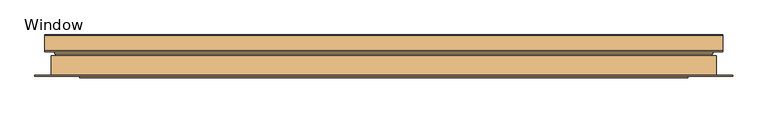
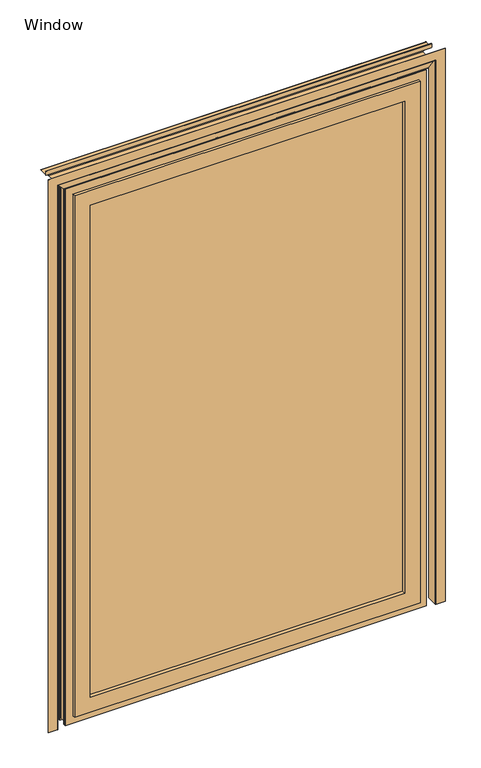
"""IFC4 building model written with IfcOpenShell, lengths in millimetres: door geometry, QO-V-QB_Door Module : Window."""

from ifc_helpers import new_model, si_unit, frame, origin, place, context, project, spatial, polyline, circle_curve, ellipse_curve, outline, extrude, faceted_brep, source, transform, mapped, element, save
from ifc_brep_helpers import plane_surface, cylinder_surface, revolved_surface, advanced_brep


def window_762d9ac7(model_context):
    return source(origin(), model_context, "Body", "SolidModel", [
        extrude(outline(polyline([(-835.985256, -85.0037561), (804.985256, -85.0037561), (804.985256, -105.0037561), (-835.985256, -105.0037561), (-835.985256, -85.0037561)])), frame((0.0, 0.0, 125.014744), z_axis=(0.0, 0.0, 1.0), x_axis=(1.0, 0.0, 0.0)), (0.0, 0.0, 1.0), 2694.470512),
        faceted_brep([(833.7021017, -67.0037561, 96.2978983), (833.7021017, -50.0037561, 96.2978983), (833.7021017, -50.0037561, 2848.2021017), (833.7021017, -67.0037561, 2848.2021017), (842.0, -50.0037561, 88.0), (842.0, -67.0037561, 88.0), (842.0, -67.0037561, 2856.5), (842.0, -50.0037561, 2856.5), (910.0, -53.8037561, 20.0), (910.0, -50.0037561, 20.0), (910.0, -50.0037561, 2924.5), (910.0, -53.8037561, 2924.5), (902.0, -57.8037561, 28.0), (902.0, -53.8037561, 28.0), (902.0, -53.8037561, 2916.5), (902.0, -57.8037561, 2916.5), (910.0, -62.1037561, 20.0), (910.0, -57.8037561, 20.0), (910.0, -57.8037561, 2924.5), (910.0, -62.1037561, 2924.5), (902.0, -97.9037561, 28.0), (902.0, -62.1037561, 28.0), (902.0, -62.1037561, 2916.5), (902.0, -97.9037561, 2916.5), (910.0, -102.2037561, 20.0), (910.0, -97.9037561, 20.0), (910.0, -97.9037561, 2924.5), (910.0, -102.2037561, 2924.5), (902.0, -106.2037561, 28.0), (902.0, -102.2037561, 28.0), (902.0, -102.2037561, 2916.5), (902.0, -106.2037561, 2916.5), (910.0, -110.0037561, 20.0), (910.0, -106.2037561, 20.0), (910.0, -106.2037561, 2924.5), (910.0, -110.0037561, 2924.5), (862.0, -98.8037561, 68.0), (862.0, -110.0037561, 68.0), (862.0, -110.0037561, 2876.5), (862.0, -98.8037561, 2876.5), (867.8127684, -62.5037561, 62.1872316), (867.8127684, -98.8037561, 62.1872316), (867.8127684, -98.8037561, 2882.3127684), (867.8127684, -62.5037561, 2882.3127684), (850.0, -114.5037561, 80.0), (850.0, -62.5037561, 80.0), (850.0, -62.5037561, 2864.5), (850.0, -114.5037561, 2864.5), (867.8127684, -110.7626496, 62.1872316), (867.8127684, -114.5037561, 62.1872316), (867.8127684, -114.5037561, 2882.3127684), (867.8127684, -110.7626496, 2882.3127684), (870.0, -124.5037561, 60.0), (870.0, -110.7626496, 60.0), (870.0, -110.7626496, 2884.5), (870.0, -124.5037561, 2884.5), (790.0, -105.0036269, 140.0), (790.0, -124.5037561, 140.0), (790.0, -124.5037561, 2804.5), (790.0, -105.0036269, 2804.5), (804.985256, -85.0036357, 125.014744), (804.985256, -105.0036269, 125.014744), (804.985256, -105.0036269, 2819.485256), (804.985256, -85.0036357, 2819.485256), (790.0, -50.0037561, 140.0), (790.0, -85.0036357, 140.0), (790.0, -85.0036357, 2804.5), (790.0, -50.0037561, 2804.5), (-864.7021017, -50.0037561, 2848.2021017), (-864.7021017, -67.0037561, 2848.2021017), (-873.0, -67.0037561, 2856.5), (-873.0, -50.0037561, 2856.5), (-941.0, -50.0037561, 2924.5), (-941.0, -53.8037561, 2924.5), (-933.0, -53.8037561, 2916.5), (-933.0, -57.8037561, 2916.5), (-941.0, -57.8037561, 2924.5), (-941.0, -62.1037561, 2924.5), (-933.0, -62.1037561, 2916.5), (-933.0, -97.9037561, 2916.5), (-941.0, -97.9037561, 2924.5), (-941.0, -102.2037561, 2924.5), (-933.0, -102.2037561, 2916.5), (-933.0, -106.2037561, 2916.5), (-941.0, -106.2037561, 2924.5), (-941.0, -110.0037561, 2924.5), (-893.0, -110.0037561, 2876.5), (-893.0, -98.8037561, 2876.5), (-898.8127684, -98.8037561, 2882.3127684), (-898.8127684, -62.5037561, 2882.3127684), (-881.0, -62.5037561, 2864.5), (-881.0, -114.5037561, 2864.5), (-898.8127684, -114.5037561, 2882.3127684), (-898.8127684, -110.7626496, 2882.3127684), (-901.0, -110.7626496, 2884.5), (-901.0, -124.5037561, 2884.5), (-821.0, -124.5037561, 2804.5), (-821.0, -105.0036269, 2804.5), (-835.985256, -105.0036269, 2819.485256), (-835.985256, -85.0036357, 2819.485256), (-821.0, -85.0036357, 2804.5), (-821.0, -50.0037561, 2804.5), (-864.7021017, -50.0037561, 96.2978983), (-864.7021017, -67.0037561, 96.2978983), (-873.0, -67.0037561, 88.0), (-873.0, -50.0037561, 88.0), (-941.0, -50.0037561, 20.0), (-941.0, -53.8037561, 20.0), (-933.0, -53.8037561, 28.0), (-933.0, -57.8037561, 28.0), (-941.0, -57.8037561, 20.0), (-941.0, -62.1037561, 20.0), (-933.0, -62.1037561, 28.0), (-933.0, -97.9037561, 28.0), (-941.0, -97.9037561, 20.0), (-941.0, -102.2037561, 20.0), (-933.0, -102.2037561, 28.0), (-933.0, -106.2037561, 28.0), (-941.0, -106.2037561, 20.0), (-941.0, -110.0037561, 20.0), (-893.0, -110.0037561, 68.0), (-893.0, -98.8037561, 68.0), (-898.8127684, -98.8037561, 62.1872316), (-898.8127684, -62.5037561, 62.1872316), (-881.0, -62.5037561, 80.0), (-881.0, -114.5037561, 80.0), (-898.8127684, -114.5037561, 62.1872316), (-898.8127684, -110.7626496, 62.1872316), (-901.0, -110.7626496, 60.0), (-901.0, -124.5037561, 60.0), (-821.0, -124.5037561, 140.0), (-821.0, -105.0036269, 140.0), (-835.985256, -105.0036269, 125.014744), (-835.985256, -85.0036357, 125.014744), (-821.0, -85.0036357, 140.0), (-821.0, -50.0037561, 140.0)], [[[0, 1, 2, 3]], [[4, 5, 6, 7]], [[8, 9, 10, 11]], [[12, 13, 14, 15]], [[16, 17, 18, 19]], [[20, 21, 22, 23]], [[24, 25, 26, 27]], [[28, 29, 30, 31]], [[32, 33, 34, 35]], [[36, 37, 38, 39]], [[40, 41, 42, 43]], [[44, 45, 46, 47]], [[48, 49, 50, 51]], [[52, 53, 54, 55]], [[56, 57, 58, 59]], [[60, 61, 62, 63]], [[64, 65, 66, 67]], [[3, 2, 68, 69]], [[7, 6, 70, 71]], [[11, 10, 72, 73]], [[15, 14, 74, 75]], [[19, 18, 76, 77]], [[23, 22, 78, 79]], [[27, 26, 80, 81]], [[31, 30, 82, 83]], [[35, 34, 84, 85]], [[39, 38, 86, 87]], [[43, 42, 88, 89]], [[47, 46, 90, 91]], [[51, 50, 92, 93]], [[55, 54, 94, 95]], [[59, 58, 96, 97]], [[63, 62, 98, 99]], [[67, 66, 100, 101]], [[69, 68, 102, 103]], [[71, 70, 104, 105]], [[73, 72, 106, 107]], [[75, 74, 108, 109]], [[77, 76, 110, 111]], [[79, 78, 112, 113]], [[81, 80, 114, 115]], [[83, 82, 116, 117]], [[85, 84, 118, 119]], [[87, 86, 120, 121]], [[89, 88, 122, 123]], [[91, 90, 124, 125]], [[93, 92, 126, 127]], [[95, 94, 128, 129]], [[97, 96, 130, 131]], [[99, 98, 132, 133]], [[101, 100, 134, 135]], [[103, 102, 1, 0]], [[5, 104, 70, 6], [3, 69, 103, 0]], [[105, 104, 5, 4]], [[9, 106, 72, 10], [7, 71, 105, 4]], [[107, 106, 9, 8]], [[11, 73, 107, 8], [13, 108, 74, 14]], [[109, 108, 13, 12]], [[17, 110, 76, 18], [15, 75, 109, 12]], [[111, 110, 17, 16]], [[19, 77, 111, 16], [21, 112, 78, 22]], [[113, 112, 21, 20]], [[25, 114, 80, 26], [23, 79, 113, 20]], [[115, 114, 25, 24]], [[27, 81, 115, 24], [29, 116, 82, 30]], [[117, 116, 29, 28]], [[33, 118, 84, 34], [31, 83, 117, 28]], [[119, 118, 33, 32]], [[35, 85, 119, 32], [37, 120, 86, 38]], [[121, 120, 37, 36]], [[41, 122, 88, 42], [39, 87, 121, 36]], [[123, 122, 41, 40]], [[43, 89, 123, 40], [45, 124, 90, 46]], [[125, 124, 45, 44]], [[49, 126, 92, 50], [47, 91, 125, 44]], [[127, 126, 49, 48]], [[53, 128, 94, 54], [51, 93, 127, 48]], [[129, 128, 53, 52]], [[55, 95, 129, 52], [57, 130, 96, 58]], [[131, 130, 57, 56]], [[61, 132, 98, 62], [59, 97, 131, 56]], [[133, 132, 61, 60]], [[63, 99, 133, 60], [65, 134, 100, 66]], [[135, 134, 65, 64]], [[1, 102, 68, 2], [67, 101, 135, 64]]]),
        advanced_brep(
        [(973.0, -46.7, 2987.5), (973.0, -46.7, 3007.4990835), (973.0, -48.7, 3007.4990835), (973.0, -48.7, 2987.5), (-1004.0, -48.7, 3007.4990835), (-1004.0, -46.7, 3007.4990835), (-1004.0, -46.7, 2987.5), (-1004.0, -48.7, 2987.5), (939.9523452, -75.0037405, 2954.4523452), (943.4523458, -75.0037405, 2957.9523458), (-974.4523458, -75.0037405, 2957.9523458), (-970.9523452, -75.0037405, 2954.4523452), (943.4523458, -76.5037405, 2957.9523458), (-974.4523458, -76.5037405, 2957.9523458), (944.9523458, -76.5037405, 2959.4523458), (-975.9523458, -76.5037405, 2959.4523458), (944.9523458, -72.6037405, 2959.4523458), (-975.9523458, -72.6037405, 2959.4523458), (943.4523458, -72.6037405, 2957.9523458), (-974.4523458, -72.6037405, 2957.9523458), (943.4523458, -73.8037405, 2957.9523458), (-974.4523458, -73.8037405, 2957.9523458), (939.9523458, -73.8037405, 2954.4523458), (-970.9523458, -73.8037405, 2954.4523458), (939.9523458, -65.7037405, 2954.4523458), (-970.9523458, -65.7037405, 2954.4523458), (943.4523458, -65.7037405, 2957.9523458), (-974.4523458, -65.7037405, 2957.9523458), (943.4523458, -66.9037405, 2957.9523458), (-974.4523458, -66.9037405, 2957.9523458), (944.9523458, -66.9037405, 2959.4523458), (-975.9523458, -66.9037405, 2959.4523458), (944.9523458, -63.0037405, 2959.4523458), (-975.9523458, -63.0037405, 2959.4523458), (943.4523458, -63.0037405, 2957.9523458), (-974.4523458, -63.0037405, 2957.9523458), (943.4523458, -64.5037405, 2957.9523458), (-974.4523458, -64.5037405, 2957.9523458), (939.9523459, -64.5037405, 2954.4523459), (-970.9523459, -64.5037405, 2954.4523459), (939.9523459, -55.4999986, 2954.4523459), (-970.9523459, -55.4999986, 2954.4523459), (942.8, -55.4999986, 2957.3), (-973.8, -55.4999986, 2957.3), (942.8, -22.4, 2957.3), (-973.8, -22.4, 2957.3), (970.9990835, -22.4, 2985.4990835), (-1001.9990835, -22.4, 2985.4990835), (970.9990835, -48.7, 2985.4990835), (-1001.9990835, -48.7, 2985.4990835), (973.0, -2.0, 2987.5), (-1004.0, -2.0, 2987.5), (971.0, 0.0, 2985.5), (-1002.0, 0.0, 2985.5), (917.0, 0.0, 2931.5), (-948.0, 0.0, 2931.5), (915.0, -2.0, 2929.5), (-946.0, -2.0, 2929.5), (915.0, -43.5, 2929.5), (-946.0, -43.5, 2929.5), (928.8, -43.5, 2943.3), (-959.8, -43.5, 2943.3), (928.8, -54.0, 2943.3), (-959.8, -54.0, 2943.3), (923.4, -54.0, 2937.9), (-954.4, -54.0, 2937.9), (923.4, -51.0, 2937.9), (-954.4, -51.0, 2937.9), (925.3, -51.0, 2939.8), (-956.3, -51.0, 2939.8), (925.3, -49.6, 2939.8), (-956.3, -49.6, 2939.8), (922.0, -49.6, 2936.5), (-953.0, -49.6, 2936.5), (922.0, -64.5037405, 2936.5), (-953.0, -64.5037405, 2936.5), (918.5513133, -64.5037405, 2933.0513133), (-949.5513133, -64.5037405, 2933.0513133), (918.5513133, -63.0037405, 2933.0513133), (-949.5513133, -63.0037405, 2933.0513133), (917.0513133, -63.0037405, 2931.5513133), (-948.0513133, -63.0037405, 2931.5513133), (917.0513133, -66.9037405, 2931.5513133), (-948.0513133, -66.9037405, 2931.5513133), (918.5513133, -66.9037405, 2933.0513133), (-949.5513133, -66.9037405, 2933.0513133), (918.5513133, -65.7037405, 2933.0513133), (-949.5513133, -65.7037405, 2933.0513133), (922.0513133, -65.7037405, 2936.5513133), (-953.0513133, -65.7037405, 2936.5513133), (922.0513133, -73.8037405, 2936.5513133), (-953.0513133, -73.8037405, 2936.5513133), (918.5513133, -73.8037405, 2933.0513133), (-949.5513133, -73.8037405, 2933.0513133), (918.5513133, -72.6037405, 2933.0513133), (-949.5513133, -72.6037405, 2933.0513133), (917.0513133, -72.6037405, 2931.5513133), (-948.0513133, -72.6037405, 2931.5513133), (917.0513133, -76.5037405, 2931.5513133), (-948.0513133, -76.5037405, 2931.5513133), (918.5513133, -76.5037405, 2933.0513133), (-949.5513133, -76.5037405, 2933.0513133), (918.5513133, -75.0037405, 2933.0513133), (-949.5513133, -75.0037405, 2933.0513133), (922.0513139, -75.0037405, 2936.5513139), (-953.0513139, -75.0037405, 2936.5513139), (922.0513139, -84.0037561, 2936.5513139), (-953.0513139, -84.0037561, 2936.5513139), (918.5018295, -84.0037561, 2933.0018295), (-949.5018295, -84.0037561, 2933.0018295), (918.5018295, -82.8037561, 2933.0018295), (-949.5018295, -82.8037561, 2933.0018295), (917.0018295, -82.8037561, 2931.5018295), (-948.0018295, -82.8037561, 2931.5018295), (917.0018295, -89.5037561, 2931.5018295), (-948.0018295, -89.5037561, 2931.5018295), (918.5018295, -89.5037561, 2933.0018295), (-949.5018295, -89.5037561, 2933.0018295), (918.5018295, -85.7037561, 2933.0018295), (-949.5018295, -85.7037561, 2933.0018295), (921.8018295, -85.7037561, 2936.3018295), (-952.8018295, -85.7037561, 2936.3018295), (921.8018295, -108.3037561, 2936.3018295), (-952.8018295, -108.3037561, 2936.3018295), (918.5018295, -108.3037561, 2933.0018295), (-949.5018295, -108.3037561, 2933.0018295), (918.5018295, -105.5037561, 2933.0018295), (-949.5018295, -105.5037561, 2933.0018295), (917.0018295, -105.5037561, 2931.5018295), (-948.0018295, -105.5037561, 2931.5018295), (917.0018295, -110.0037561, 2931.5018295), (-948.0018295, -110.0037561, 2931.5018295), (945.0018295, -110.0037561, 2959.5018295), (-976.0018295, -110.0037561, 2959.5018295), (945.0018295, -105.5037561, 2959.5018295), (-976.0018295, -105.5037561, 2959.5018295), (943.5018295, -105.5037561, 2958.0018295), (-974.5018295, -105.5037561, 2958.0018295), (943.5018295, -108.3037561, 2958.0018295), (-974.5018295, -108.3037561, 2958.0018295), (940.2018295, -108.3037561, 2954.7018295), (-971.2018295, -108.3037561, 2954.7018295), (940.2018295, -85.7037561, 2954.7018295), (-971.2018295, -85.7037561, 2954.7018295), (943.5018295, -85.7037561, 2958.0018295), (-974.5018295, -85.7037561, 2958.0018295), (943.5018295, -89.5037561, 2958.0018295), (-974.5018295, -89.5037561, 2958.0018295), (945.0018295, -89.5037561, 2959.5018295), (-976.0018295, -89.5037561, 2959.5018295), (945.0018295, -82.8037561, 2959.5018295), (-976.0018295, -82.8037561, 2959.5018295), (943.5018295, -82.8037561, 2958.0018295), (-974.5018295, -82.8037561, 2958.0018295), (943.5018295, -84.0037561, 2958.0018295), (-974.5018295, -84.0037561, 2958.0018295), (939.9523452, -84.0037561, 2954.4523452), (-970.9523452, -84.0037561, 2954.4523452), (942.8, -1.5, 2957.3), (971.5, -1.5, 2986.0), (-1002.5, -1.5, 2986.0), (-973.8, -1.5, 2957.3), (971.5, -20.7, 2986.0), (-1002.5, -20.7, 2986.0), (942.8, -20.7, 2957.3), (-973.8, -20.7, 2957.3), (930.8, -41.5, 2945.3), (916.7, -41.5, 2931.2), (-947.7, -41.5, 2931.2), (-961.8, -41.5, 2945.3), (916.7, -1.5, 2931.2), (-947.7, -1.5, 2931.2), (941.1, -1.5, 2955.6), (-972.1, -1.5, 2955.6), (941.1, -54.0, 2955.6), (-972.1, -54.0, 2955.6), (930.8, -54.0, 2945.3), (-961.8, -54.0, 2945.3), (923.7018295, -108.3037561, 2938.2018295), (923.7018295, -85.7037561, 2938.2018295), (-954.7018295, -85.7037561, 2938.2018295), (-954.7018295, -108.3037561, 2938.2018295), (938.3018295, -85.7037561, 2952.8018295), (-969.3018295, -85.7037561, 2952.8018295), (938.3018295, -108.3037561, 2952.8018295), (-969.3018295, -108.3037561, 2952.8018295)],
        [
            (0, 1),
            (1, 2),
            (2, 3),
            (3, 0),
            (4, 5),
            (5, 6),
            (6, 7),
            (7, 4),
            (8, 9),
            (9, 10),
            (10, 11),
            (11, 8),
            (9, 12),
            (12, 13),
            (13, 10),
            (12, 14),
            (14, 15),
            (15, 13),
            (14, 16),
            (16, 17),
            (17, 15),
            (16, 18),
            (18, 19),
            (19, 17),
            (18, 20),
            (20, 21),
            (21, 19),
            (20, 22),
            (22, 23),
            (23, 21),
            (22, 24),
            (24, 25),
            (25, 23),
            (24, 26),
            (26, 27),
            (27, 25),
            (26, 28),
            (28, 29),
            (29, 27),
            (28, 30),
            (30, 31),
            (31, 29),
            (30, 32),
            (32, 33),
            (33, 31),
            (32, 34),
            (34, 35),
            (35, 33),
            (34, 36),
            (36, 37),
            (37, 35),
            (36, 38),
            (38, 39),
            (39, 37),
            (38, 40),
            (40, 41),
            (41, 39),
            (40, 42),
            (42, 43),
            (43, 41),
            (42, 44),
            (44, 45),
            (45, 43),
            (44, 46),
            (46, 47),
            (47, 45),
            (46, 48),
            (48, 49),
            (49, 47),
            (2, 4),
            (7, 49),
            (48, 3),
            (1, 5),
            (0, 6),
            (0, 50),
            (50, 51),
            (51, 6),
            (50, 52, ellipse_curve(frame((971.0, -2.0, 2985.5), z_axis=(-0.7071067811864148, 0.0, 0.7071067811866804), x_axis=(0.7071067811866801, 0.0, 0.7071067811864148)), 2.8284271, 2.0)),
            (52, 53),
            (53, 51, ellipse_curve(frame((-1002.0, -2.0, 2985.5), z_axis=(0.7071067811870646, 0.0, 0.7071067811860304), x_axis=(0.7071067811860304, 0.0, -0.7071067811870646)), 2.8284271, 2.0)),
            (52, 54),
            (54, 55),
            (55, 53),
            (54, 56, ellipse_curve(frame((917.0, -2.0, 2931.5), z_axis=(-0.7071067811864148, 0.0, 0.7071067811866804), x_axis=(0.7071067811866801, 0.0, 0.7071067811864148)), 2.8284271, 2.0)),
            (56, 57),
            (57, 55, ellipse_curve(frame((-948.0, -2.0, 2931.5), z_axis=(0.7071067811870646, 0.0, 0.7071067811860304), x_axis=(0.7071067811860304, 0.0, -0.7071067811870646)), 2.8284271, 2.0)),
            (56, 58),
            (58, 59),
            (59, 57),
            (58, 60),
            (60, 61),
            (61, 59),
            (60, 62),
            (62, 63),
            (63, 61),
            (62, 64),
            (64, 65),
            (65, 63),
            (64, 66),
            (66, 67),
            (67, 65),
            (66, 68),
            (68, 69),
            (69, 67),
            (68, 70),
            (70, 71),
            (71, 69),
            (70, 72),
            (72, 73),
            (73, 71),
            (72, 74),
            (74, 75),
            (75, 73),
            (74, 76),
            (76, 77),
            (77, 75),
            (76, 78),
            (78, 79),
            (79, 77),
            (78, 80),
            (80, 81),
            (81, 79),
            (80, 82),
            (82, 83),
            (83, 81),
            (82, 84),
            (84, 85),
            (85, 83),
            (84, 86),
            (86, 87),
            (87, 85),
            (86, 88),
            (88, 89),
            (89, 87),
            (88, 90),
            (90, 91),
            (91, 89),
            (90, 92),
            (92, 93),
            (93, 91),
            (92, 94),
            (94, 95),
            (95, 93),
            (94, 96),
            (96, 97),
            (97, 95),
            (96, 98),
            (98, 99),
            (99, 97),
            (98, 100),
            (100, 101),
            (101, 99),
            (100, 102),
            (102, 103),
            (103, 101),
            (102, 104),
            (104, 105),
            (105, 103),
            (104, 106),
            (106, 107),
            (107, 105),
            (106, 108),
            (108, 109),
            (109, 107),
            (108, 110),
            (110, 111),
            (111, 109),
            (110, 112),
            (112, 113),
            (113, 111),
            (112, 114),
            (114, 115),
            (115, 113),
            (114, 116),
            (116, 117),
            (117, 115),
            (116, 118),
            (118, 119),
            (119, 117),
            (118, 120),
            (120, 121),
            (121, 119),
            (120, 122),
            (122, 123),
            (123, 121),
            (122, 124),
            (124, 125),
            (125, 123),
            (124, 126),
            (126, 127),
            (127, 125),
            (126, 128),
            (128, 129),
            (129, 127),
            (128, 130),
            (130, 131),
            (131, 129),
            (130, 132),
            (132, 133),
            (133, 131),
            (132, 134),
            (134, 135),
            (135, 133),
            (134, 136),
            (136, 137),
            (137, 135),
            (136, 138),
            (138, 139),
            (139, 137),
            (138, 140),
            (140, 141),
            (141, 139),
            (140, 142),
            (142, 143),
            (143, 141),
            (142, 144),
            (144, 145),
            (145, 143),
            (144, 146),
            (146, 147),
            (147, 145),
            (146, 148),
            (148, 149),
            (149, 147),
            (148, 150),
            (150, 151),
            (151, 149),
            (150, 152),
            (152, 153),
            (153, 151),
            (152, 154),
            (154, 155),
            (155, 153),
            (154, 156),
            (156, 157),
            (157, 155),
            (156, 8),
            (11, 157),
            (158, 159),
            (159, 160),
            (160, 161),
            (161, 158),
            (159, 162),
            (162, 163),
            (163, 160),
            (162, 164),
            (164, 165),
            (165, 163),
            (164, 158),
            (161, 165),
            (166, 167),
            (167, 168),
            (168, 169),
            (169, 166),
            (167, 170),
            (170, 171),
            (171, 168),
            (170, 172),
            (172, 173),
            (173, 171),
            (172, 174),
            (174, 175),
            (175, 173),
            (174, 176),
            (176, 177),
            (177, 175),
            (176, 166),
            (169, 177),
            (178, 179),
            (179, 180),
            (180, 181),
            (181, 178),
            (179, 182),
            (182, 183),
            (183, 180),
            (182, 184),
            (184, 185),
            (185, 183),
            (184, 178),
            (181, 185),
        ],
        [
            plane_surface(frame((973.0, 0.0, 3000.0), z_axis=(1.0, 0.0, 0.0), x_axis=(0.0, -1.0, 0.0))),
            plane_surface(frame((-1004.0, 0.0, 3000.0), z_axis=(-1.0, 0.0, 0.0), x_axis=(0.0, -1.0, 0.0))),
            plane_surface(frame((973.0, -75.0037405, 2957.9523458), z_axis=(0.0, -1.0, 0.0), x_axis=(-1.0, 0.0, 0.0))),
            plane_surface(frame((973.0, -76.5037405, 2957.9523458), z_axis=(0.0, 0.0, -1.0), x_axis=(-1.0, 0.0, 0.0))),
            plane_surface(frame((973.0, -76.5037405, 2959.4523458), z_axis=(0.0, -1.0, 0.0), x_axis=(-1.0, 0.0, 0.0))),
            plane_surface(frame((973.0, -72.6037405, 2959.4523458), z_axis=(0.0, 0.0, 1.0), x_axis=(-1.0, 0.0, 0.0))),
            plane_surface(frame((973.0, -72.6037405, 2957.9523458), z_axis=(0.0, 1.0, 0.0), x_axis=(-1.0, 0.0, 0.0))),
            plane_surface(frame((973.0, -73.8037405, 2957.9523458), z_axis=(0.0, 0.0, -1.0), x_axis=(-1.0, 0.0, 0.0))),
            plane_surface(frame((973.0, -73.8037405, 2954.4523458), z_axis=(0.0, 1.0, 0.0), x_axis=(-1.0, 0.0, 0.0))),
            plane_surface(frame((973.0, -65.7037405, 2954.4523458), z_axis=(0.0, 0.0, 1.0), x_axis=(-1.0, 0.0, 0.0))),
            plane_surface(frame((973.0, -65.7037405, 2957.9523458), z_axis=(0.0, -1.0, 0.0), x_axis=(-1.0, 0.0, 0.0))),
            plane_surface(frame((973.0, -66.9037405, 2957.9523458), z_axis=(0.0, 0.0, -1.0), x_axis=(-1.0, 0.0, 0.0))),
            plane_surface(frame((973.0, -66.9037405, 2959.4523458), z_axis=(0.0, -1.0, 0.0), x_axis=(-1.0, 0.0, 0.0))),
            plane_surface(frame((973.0, -63.0037405, 2959.4523458), z_axis=(0.0, 0.0, 1.0), x_axis=(-1.0, 0.0, 0.0))),
            plane_surface(frame((973.0, -63.0037405, 2957.9523458), z_axis=(0.0, 1.0, 0.0), x_axis=(-1.0, 0.0, 0.0))),
            plane_surface(frame((973.0, -64.5037405, 2957.9523458), z_axis=(0.0, 0.0, -1.0), x_axis=(-1.0, 0.0, 0.0))),
            plane_surface(frame((973.0, -64.5037405, 2954.4523459), z_axis=(0.0, 1.0, 0.0), x_axis=(-1.0, 0.0, 0.0))),
            plane_surface(frame((973.0, -55.4999986, 2954.4523459), z_axis=(0.0, 0.0, 1.0), x_axis=(-1.0, 0.0, 0.0))),
            plane_surface(frame((973.0, -55.4999986, 2957.3), z_axis=(0.0, -1.0, 0.0), x_axis=(-1.0, 0.0, 0.0))),
            plane_surface(frame((973.0, -22.4, 2957.3), z_axis=(0.0, 0.0, 1.0), x_axis=(-1.0, 0.0, 0.0))),
            plane_surface(frame((973.0, -22.4, 2985.4990835), z_axis=(0.0, -1.0, 0.0), x_axis=(-1.0, 0.0, 0.0))),
            plane_surface(frame((973.0, -48.7, 2985.4990835), z_axis=(0.0, 0.0, -1.0), x_axis=(-1.0, 0.0, 0.0))),
            plane_surface(frame((973.0, -48.7, 3007.4990835), z_axis=(0.0, -1.0, 0.0), x_axis=(-1.0, 0.0, 0.0))),
            plane_surface(frame((973.0, -46.7, 3007.4990835), z_axis=(0.0, 0.0, 1.0), x_axis=(-1.0, 0.0, 0.0))),
            plane_surface(frame((973.0, -46.7, 2987.5), z_axis=(0.0, 1.0, 0.0), x_axis=(-1.0, 0.0, 0.0))),
            plane_surface(frame((973.0, -2.0, 2987.5), z_axis=(0.0, 0.0, 1.0), x_axis=(-1.0, 0.0, 0.0))),
            cylinder_surface(frame((973.0, -2.0, 2985.5), z_axis=(1.0, 0.0, 0.0), x_axis=(0.0, -1.0, 0.0)), 2.0),
            plane_surface(frame((973.0, 0.0, 2931.5), z_axis=(0.0, 1.0, 0.0), x_axis=(-1.0, 0.0, 0.0))),
            cylinder_surface(frame((973.0, -2.0, 2931.5), z_axis=(1.0, 0.0, 0.0), x_axis=(0.0, -1.0, 0.0)), 2.0),
            plane_surface(frame((973.0, -43.5, 2929.5), z_axis=(0.0, 0.0, -1.0), x_axis=(-1.0, 0.0, 0.0))),
            plane_surface(frame((973.0, -43.5, 2943.3), z_axis=(0.0, -1.0, 0.0), x_axis=(-1.0, 0.0, 0.0))),
            plane_surface(frame((973.0, -54.0, 2943.3), z_axis=(0.0, 0.0, -1.0), x_axis=(-1.0, 0.0, 0.0))),
            plane_surface(frame((973.0, -54.0, 2937.9), z_axis=(0.0, 1.0, 0.0), x_axis=(-1.0, 0.0, 0.0))),
            plane_surface(frame((973.0, -51.0, 2937.9), z_axis=(0.0, 0.0, 1.0), x_axis=(-1.0, 0.0, 0.0))),
            plane_surface(frame((973.0, -51.0, 2939.8), z_axis=(0.0, -1.0, 0.0), x_axis=(-1.0, 0.0, 0.0))),
            plane_surface(frame((973.0, -49.6, 2939.8), z_axis=(0.0, 0.0, 1.0), x_axis=(-1.0, 0.0, 0.0))),
            plane_surface(frame((973.0, -49.6, 2936.5), z_axis=(0.0, 1.0, 0.0), x_axis=(-1.0, 0.0, 0.0))),
            plane_surface(frame((973.0, -64.5037405, 2936.5), z_axis=(0.0, 0.0, -1.0), x_axis=(-1.0, 0.0, 0.0))),
            plane_surface(frame((973.0, -64.5037405, 2933.0513133), z_axis=(0.0, 1.0, 0.0), x_axis=(-1.0, 0.0, 0.0))),
            plane_surface(frame((973.0, -63.0037405, 2933.0513133), z_axis=(0.0, 0.0, 1.0), x_axis=(-1.0, 0.0, 0.0))),
            plane_surface(frame((973.0, -63.0037405, 2931.5513133), z_axis=(0.0, 1.0, 0.0), x_axis=(-1.0, 0.0, 0.0))),
            plane_surface(frame((973.0, -66.9037405, 2931.5513133), z_axis=(0.0, 0.0, -1.0), x_axis=(-1.0, 0.0, 0.0))),
            plane_surface(frame((973.0, -66.9037405, 2933.0513133), z_axis=(0.0, -1.0, 0.0), x_axis=(-1.0, 0.0, 0.0))),
            plane_surface(frame((973.0, -65.7037405, 2933.0513133), z_axis=(0.0, 0.0, 1.0), x_axis=(-1.0, 0.0, 0.0))),
            plane_surface(frame((973.0, -65.7037405, 2936.5513133), z_axis=(0.0, -1.0, 0.0), x_axis=(-1.0, 0.0, 0.0))),
            plane_surface(frame((973.0, -73.8037405, 2936.5513133), z_axis=(0.0, 0.0, -1.0), x_axis=(-1.0, 0.0, 0.0))),
            plane_surface(frame((973.0, -73.8037405, 2933.0513133), z_axis=(0.0, 1.0, 0.0), x_axis=(-1.0, 0.0, 0.0))),
            plane_surface(frame((973.0, -72.6037405, 2933.0513133), z_axis=(0.0, 0.0, 1.0), x_axis=(-1.0, 0.0, 0.0))),
            plane_surface(frame((973.0, -72.6037405, 2931.5513133), z_axis=(0.0, 1.0, 0.0), x_axis=(-1.0, 0.0, 0.0))),
            plane_surface(frame((973.0, -76.5037405, 2931.5513133), z_axis=(0.0, 0.0, -1.0), x_axis=(-1.0, 0.0, 0.0))),
            plane_surface(frame((973.0, -76.5037405, 2933.0513133), z_axis=(0.0, -1.0, 0.0), x_axis=(-1.0, 0.0, 0.0))),
            plane_surface(frame((973.0, -75.0037405, 2933.0513133), z_axis=(0.0, 0.0, 1.0), x_axis=(-1.0, 0.0, 0.0))),
            plane_surface(frame((973.0, -75.0037405, 2936.5513139), z_axis=(0.0, -1.0, 0.0), x_axis=(-1.0, 0.0, 0.0))),
            plane_surface(frame((973.0, -84.0037561, 2936.5513139), z_axis=(0.0, 0.0, -1.0), x_axis=(-1.0, 0.0, 0.0))),
            plane_surface(frame((973.0, -84.0037561, 2933.0018295), z_axis=(0.0, 1.0, 0.0), x_axis=(-1.0, 0.0, 0.0))),
            plane_surface(frame((973.0, -82.8037561, 2933.0018295), z_axis=(0.0, 0.0, 1.0), x_axis=(-1.0, 0.0, 0.0))),
            plane_surface(frame((973.0, -82.8037561, 2931.5018295), z_axis=(0.0, 1.0, 0.0), x_axis=(-1.0, 0.0, 0.0))),
            plane_surface(frame((973.0, -89.5037561, 2931.5018295), z_axis=(0.0, 0.0, -1.0), x_axis=(-1.0, 0.0, 0.0))),
            plane_surface(frame((973.0, -89.5037561, 2933.0018295), z_axis=(0.0, -1.0, 0.0), x_axis=(-1.0, 0.0, 0.0))),
            plane_surface(frame((973.0, -85.7037561, 2933.0018295), z_axis=(0.0, 0.0, 1.0), x_axis=(-1.0, 0.0, 0.0))),
            plane_surface(frame((973.0, -85.7037561, 2936.3018295), z_axis=(0.0, -1.0, 0.0), x_axis=(-1.0, 0.0, 0.0))),
            plane_surface(frame((973.0, -108.3037561, 2936.3018295), z_axis=(0.0, 0.0, -1.0), x_axis=(-1.0, 0.0, 0.0))),
            plane_surface(frame((973.0, -108.3037561, 2933.0018295), z_axis=(0.0, 1.0, 0.0), x_axis=(-1.0, 0.0, 0.0))),
            plane_surface(frame((973.0, -105.5037561, 2933.0018295), z_axis=(0.0, 0.0, 1.0), x_axis=(-1.0, 0.0, 0.0))),
            plane_surface(frame((973.0, -105.5037561, 2931.5018295), z_axis=(0.0, 1.0, 0.0), x_axis=(-1.0, 0.0, 0.0))),
            plane_surface(frame((973.0, -110.0037561, 2931.5018295), z_axis=(0.0, 0.0, -1.0), x_axis=(-1.0, 0.0, 0.0))),
            plane_surface(frame((973.0, -110.0037561, 2959.5018295), z_axis=(0.0, -1.0, 0.0), x_axis=(-1.0, 0.0, 0.0))),
            plane_surface(frame((973.0, -105.5037561, 2959.5018295), z_axis=(0.0, 0.0, 1.0), x_axis=(-1.0, 0.0, 0.0))),
            plane_surface(frame((973.0, -105.5037561, 2958.0018295), z_axis=(0.0, 1.0, 0.0), x_axis=(-1.0, 0.0, 0.0))),
            plane_surface(frame((973.0, -108.3037561, 2958.0018295), z_axis=(0.0, 0.0, -1.0), x_axis=(-1.0, 0.0, 0.0))),
            plane_surface(frame((973.0, -108.3037561, 2954.7018295), z_axis=(0.0, 1.0, 0.0), x_axis=(-1.0, 0.0, 0.0))),
            plane_surface(frame((973.0, -85.7037561, 2954.7018295), z_axis=(0.0, 0.0, 1.0), x_axis=(-1.0, 0.0, 0.0))),
            plane_surface(frame((973.0, -85.7037561, 2958.0018295), z_axis=(0.0, -1.0, 0.0), x_axis=(-1.0, 0.0, 0.0))),
            plane_surface(frame((973.0, -89.5037561, 2958.0018295), z_axis=(0.0, 0.0, -1.0), x_axis=(-1.0, 0.0, 0.0))),
            plane_surface(frame((973.0, -89.5037561, 2959.5018295), z_axis=(0.0, -1.0, 0.0), x_axis=(-1.0, 0.0, 0.0))),
            plane_surface(frame((973.0, -82.8037561, 2959.5018295), z_axis=(0.0, 0.0, 1.0), x_axis=(-1.0, 0.0, 0.0))),
            plane_surface(frame((973.0, -82.8037561, 2958.0018295), z_axis=(0.0, 1.0, 0.0), x_axis=(-1.0, 0.0, 0.0))),
            plane_surface(frame((973.0, -84.0037561, 2958.0018295), z_axis=(0.0, 0.0, -1.0), x_axis=(-1.0, 0.0, 0.0))),
            plane_surface(frame((973.0, -84.0037561, 2954.4523452), z_axis=(0.0, 1.0, 0.0), x_axis=(-1.0, 0.0, 0.0))),
            plane_surface(frame((973.0, -75.0037405, 2954.4523452), z_axis=(0.0, 0.0, 1.0), x_axis=(-1.0, 0.0, 0.0))),
            plane_surface(frame((973.0, -1.5, 2986.0), z_axis=(0.0, -1.0, 0.0), x_axis=(-1.0, 0.0, 0.0))),
            plane_surface(frame((973.0, -20.7, 2986.0), z_axis=(0.0, 0.0, -1.0), x_axis=(-1.0, 0.0, 0.0))),
            plane_surface(frame((973.0, -20.7, 2957.3), z_axis=(0.0, 1.0, 0.0), x_axis=(-1.0, 0.0, 0.0))),
            plane_surface(frame((973.0, -1.5, 2957.3), z_axis=(0.0, 0.0, 1.0), x_axis=(-1.0, 0.0, 0.0))),
            plane_surface(frame((973.0, -41.5, 2931.2), z_axis=(0.0, 1.0, 0.0), x_axis=(-1.0, 0.0, 0.0))),
            plane_surface(frame((973.0, -1.5, 2931.2), z_axis=(0.0, 0.0, 1.0), x_axis=(-1.0, 0.0, 0.0))),
            plane_surface(frame((973.0, -1.5, 2955.6), z_axis=(0.0, -1.0, 0.0), x_axis=(-1.0, 0.0, 0.0))),
            plane_surface(frame((973.0, -54.0, 2955.6), z_axis=(0.0, 0.0, -1.0), x_axis=(-1.0, 0.0, 0.0))),
            plane_surface(frame((973.0, -54.0, 2945.3), z_axis=(0.0, 1.0, 0.0), x_axis=(-1.0, 0.0, 0.0))),
            plane_surface(frame((973.0, -41.5, 2945.3), z_axis=(0.0, 0.0, 1.0), x_axis=(-1.0, 0.0, 0.0))),
            plane_surface(frame((973.0, -85.7037561, 2938.2018295), z_axis=(0.0, 0.0, 1.0), x_axis=(-1.0, 0.0, 0.0))),
            plane_surface(frame((973.0, -85.7037561, 2952.8018295), z_axis=(0.0, -1.0, 0.0), x_axis=(-1.0, 0.0, 0.0))),
            plane_surface(frame((973.0, -108.3037561, 2952.8018295), z_axis=(0.0, 0.0, -1.0), x_axis=(-1.0, 0.0, 0.0))),
            plane_surface(frame((973.0, -108.3037561, 2938.2018295), z_axis=(0.0, 1.0, 0.0), x_axis=(-1.0, 0.0, 0.0))),
            plane_surface(frame((973.0294844, -180.0, 2987.5294844), z_axis=(0.7071067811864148, 0.0, -0.7071067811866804), x_axis=(0.0, 1.0, 0.0))),
            plane_surface(frame((-946.0, -120.0, 2929.5), z_axis=(-0.7071067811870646, 0.0, -0.7071067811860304), x_axis=(0.0, 1.0, 0.0))),
        ],
        [
            (0, [[1, 2, 3, 4]]),
            (1, [[5, 6, 7, 8]]),
            (2, [[9, 10, 11, 12]]),
            (3, [[13, 14, 15, -10]]),
            (4, [[16, 17, 18, -14]]),
            (5, [[19, 20, 21, -17]]),
            (6, [[22, 23, 24, -20]]),
            (7, [[25, 26, 27, -23]]),
            (8, [[28, 29, 30, -26]]),
            (9, [[31, 32, 33, -29]]),
            (10, [[34, 35, 36, -32]]),
            (11, [[37, 38, 39, -35]]),
            (12, [[40, 41, 42, -38]]),
            (13, [[43, 44, 45, -41]]),
            (14, [[46, 47, 48, -44]]),
            (15, [[49, 50, 51, -47]]),
            (16, [[52, 53, 54, -50]]),
            (17, [[55, 56, 57, -53]]),
            (18, [[58, 59, 60, -56]]),
            (19, [[61, 62, 63, -59]]),
            (20, [[64, 65, 66, -62]]),
            (21, [[67, 68, 69, -65]]),
            (22, [[70, -8, 71, -68, 72, -3]]),
            (23, [[-2, 73, -5, -70]]),
            (24, [[-1, 74, -6, -73]]),
            (25, [[-74, 75, 76, 77]]),
            (26, [[-76, 78, 79, 80]]),
            (27, [[81, 82, 83, -79]]),
            (28, [[84, 85, 86, -82]]),
            (29, [[87, 88, 89, -85]]),
            (30, [[90, 91, 92, -88]]),
            (31, [[93, 94, 95, -91]]),
            (32, [[96, 97, 98, -94]]),
            (33, [[99, 100, 101, -97]]),
            (34, [[102, 103, 104, -100]]),
            (35, [[105, 106, 107, -103]]),
            (36, [[108, 109, 110, -106]]),
            (37, [[111, 112, 113, -109]]),
            (38, [[114, 115, 116, -112]]),
            (39, [[117, 118, 119, -115]]),
            (40, [[120, 121, 122, -118]]),
            (41, [[123, 124, 125, -121]]),
            (42, [[126, 127, 128, -124]]),
            (43, [[129, 130, 131, -127]]),
            (44, [[132, 133, 134, -130]]),
            (45, [[135, 136, 137, -133]]),
            (46, [[138, 139, 140, -136]]),
            (47, [[141, 142, 143, -139]]),
            (48, [[144, 145, 146, -142]]),
            (49, [[147, 148, 149, -145]]),
            (50, [[150, 151, 152, -148]]),
            (51, [[153, 154, 155, -151]]),
            (52, [[156, 157, 158, -154]]),
            (53, [[159, 160, 161, -157]]),
            (54, [[162, 163, 164, -160]]),
            (55, [[165, 166, 167, -163]]),
            (56, [[168, 169, 170, -166]]),
            (57, [[171, 172, 173, -169]]),
            (58, [[174, 175, 176, -172]]),
            (59, [[177, 178, 179, -175]]),
            (60, [[180, 181, 182, -178]]),
            (61, [[183, 184, 185, -181]]),
            (62, [[186, 187, 188, -184]]),
            (63, [[189, 190, 191, -187]]),
            (64, [[192, 193, 194, -190]]),
            (65, [[195, 196, 197, -193]]),
            (66, [[198, 199, 200, -196]]),
            (67, [[201, 202, 203, -199]]),
            (68, [[204, 205, 206, -202]]),
            (69, [[207, 208, 209, -205]]),
            (70, [[210, 211, 212, -208]]),
            (71, [[213, 214, 215, -211]]),
            (72, [[216, 217, 218, -214]]),
            (73, [[219, 220, 221, -217]]),
            (74, [[222, 223, 224, -220]]),
            (75, [[225, 226, 227, -223]]),
            (76, [[228, 229, 230, -226]]),
            (77, [[231, 232, 233, -229]]),
            (78, [[234, 235, 236, -232]]),
            (79, [[237, -12, 238, -235]]),
            (80, [[239, 240, 241, 242]]),
            (81, [[243, 244, 245, -240]]),
            (82, [[246, 247, 248, -244]]),
            (83, [[249, -242, 250, -247]]),
            (84, [[251, 252, 253, 254]]),
            (85, [[255, 256, 257, -252]]),
            (86, [[258, 259, 260, -256]]),
            (87, [[261, 262, 263, -259]]),
            (88, [[264, 265, 266, -262]]),
            (89, [[267, -254, 268, -265]]),
            (90, [[269, 270, 271, 272]]),
            (91, [[273, 274, 275, -270]]),
            (92, [[276, 277, 278, -274]]),
            (93, [[279, -272, 280, -277]]),
            (94, [[-4, -72, -67, -64, -61, -58, -55, -52, -49, -46, -43, -40, -37, -34, -31, -28, -25, -22, -19, -16, -13, -9, -237, -234, -231, -228, -225, -222, -219, -216, -213, -210, -207, -204, -201, -198, -195, -192, -189, -186, -183, -180, -177, -174, -171, -168, -165, -162, -159, -156, -153, -150, -147, -144, -141, -138, -135, -132, -129, -126, -123, -120, -117, -114, -111, -108, -105, -102, -99, -96, -93, -90, -87, -84, -81, -78, -75], [-239, -249, -246, -243], [-251, -267, -264, -261, -258, -255], [-269, -279, -276, -273]]),
            (95, [[-7, -77, -80, -83, -86, -89, -92, -95, -98, -101, -104, -107, -110, -113, -116, -119, -122, -125, -128, -131, -134, -137, -140, -143, -146, -149, -152, -155, -158, -161, -164, -167, -170, -173, -176, -179, -182, -185, -188, -191, -194, -197, -200, -203, -206, -209, -212, -215, -218, -221, -224, -227, -230, -233, -236, -238, -11, -15, -18, -21, -24, -27, -30, -33, -36, -39, -42, -45, -48, -51, -54, -57, -60, -63, -66, -69, -71], [-241, -245, -248, -250], [-253, -257, -260, -263, -266, -268], [-271, -275, -278, -280]]),
        ],
    ),
        advanced_brep(
        [(951.0, -116.0, 20.0), (951.0, -60.0, 20.0), (953.0, -60.0, 20.0), (953.0, -116.0, 20.0), (955.0, -118.0, 20.0), (1001.0, -118.0, 20.0), (1001.0, -120.0, 20.0), (955.0, -120.0, 20.0), (951.0, -116.0, 2965.0), (951.0, -60.0, 2965.0), (-982.0, -60.0, 2965.0), (-982.0, -60.0, 20.0), (-984.0, -60.0, 20.0), (-984.0, -60.0, 2967.0), (953.0, -60.0, 2967.0), (953.0, -116.0, 2967.0), (955.0, -118.0, 2969.0), (-986.0, -118.0, 2969.0), (-986.0, -118.0, 20.0), (-1032.0, -118.0, 20.0), (-1032.0, -118.0, 3015.0), (1001.0, -118.0, 3015.0), (1001.0, -120.0, 3015.0), (-1032.0, -120.0, 3015.0), (-1032.0, -120.0, 20.0), (-986.0, -120.0, 20.0), (-986.0, -120.0, 2969.0), (955.0, -120.0, 2969.0), (-982.0, -116.0, 2965.0), (-982.0, -116.0, 20.0), (-984.0, -116.0, 20.0), (-984.0, -116.0, 2967.0)],
        [
            (0, 1),
            (1, 2),
            (2, 3),
            (3, 4, circle_curve(frame((955.0, -116.0, 20.0), z_axis=(0.0, 0.0, 1.0), x_axis=(0.0, -1.0, 0.0)), 2.0)),
            (4, 5),
            (5, 6),
            (6, 7),
            (7, 0, circle_curve(frame((955.0, -116.0, 20.0), z_axis=(0.0, 0.0, -1.0), x_axis=(0.0, -1.0, 0.0)), 4.0)),
            (0, 8),
            (8, 9),
            (9, 1),
            (9, 10),
            (10, 11),
            (11, 12),
            (12, 13),
            (13, 14),
            (14, 2),
            (14, 15),
            (15, 3),
            (15, 16, ellipse_curve(frame((955.0, -116.0, 2969.0), z_axis=(-0.7071067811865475, 0.0, 0.7071067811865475), x_axis=(0.7071067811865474, 0.0, 0.7071067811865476)), 2.8284271, 2.0)),
            (16, 4),
            (16, 17),
            (17, 18),
            (18, 19),
            (19, 20),
            (20, 21),
            (21, 5),
            (21, 22),
            (22, 6),
            (22, 23),
            (23, 24),
            (24, 25),
            (25, 26),
            (26, 27),
            (27, 7),
            (27, 8, ellipse_curve(frame((955.0, -116.0, 2969.0), z_axis=(0.7071067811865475, 0.0, -0.7071067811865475), x_axis=(-0.7071067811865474, 0.0, -0.7071067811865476)), 5.6568542, 4.0)),
            (10, 28),
            (28, 29),
            (29, 11),
            (28, 26, ellipse_curve(frame((-986.0, -116.0, 2969.0), z_axis=(-0.7071067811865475, 0.0, -0.7071067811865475), x_axis=(-0.7071067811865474, 0.0, 0.7071067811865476)), 5.6568542, 4.0)),
            (25, 29, circle_curve(frame((-986.0, -116.0, 20.0), z_axis=(0.0, 0.0, 1.0), x_axis=(0.0, -1.0, 0.0)), 4.0)),
            (24, 19),
            (18, 30, circle_curve(frame((-986.0, -116.0, 20.0), z_axis=(0.0, 0.0, 1.0), x_axis=(0.0, -1.0, 0.0)), 2.0)),
            (30, 12),
            (31, 13),
            (30, 31),
            (17, 31, ellipse_curve(frame((-986.0, -116.0, 2969.0), z_axis=(0.7071067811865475, 0.0, 0.7071067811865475), x_axis=(0.7071067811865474, 0.0, -0.7071067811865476)), 2.8284271, 2.0)),
            (23, 20),
            (8, 28),
            (31, 15),
        ],
        [
            plane_surface(frame((951.0, -120.0, 20.0), z_axis=(0.0, 0.0, -1.0), x_axis=(0.0, 1.0, 0.0))),
            plane_surface(frame((951.0, -116.0, 20.0), z_axis=(-1.0, 0.0, 0.0), x_axis=(0.0, 0.0, 1.0))),
            plane_surface(frame((951.0, -60.0, 20.0), z_axis=(0.0, 1.0, 0.0), x_axis=(0.0, 0.0, 1.0))),
            plane_surface(frame((953.0, -60.0, 20.0), z_axis=(1.0, 0.0, 0.0), x_axis=(0.0, 0.0, 1.0))),
            revolved_surface(polyline([(955.0, -118.0, 2970.999999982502), (955.0, -118.0, 20.0)]), (955.0, -116.0, 20.0), (0.0, 0.0, 1.0)),
            plane_surface(frame((955.0, -118.0, 20.0), z_axis=(0.0, 1.0, 0.0), x_axis=(0.0, 0.0, 1.0))),
            plane_surface(frame((1001.0, -118.0, 20.0), z_axis=(1.0, 0.0, 0.0), x_axis=(0.0, 0.0, 1.0))),
            plane_surface(frame((1001.0, -120.0, 20.0), z_axis=(0.0, -1.0, 0.0), x_axis=(0.0, 0.0, 1.0))),
            cylinder_surface(frame((955.0, -116.0, 20.0), z_axis=(0.0, 0.0, -1.0), x_axis=(0.0, -1.0, 0.0)), 4.0),
            plane_surface(frame((-982.0, -116.0, 2965.0), z_axis=(1.0, 0.0, 0.0), x_axis=(0.0, 0.0, -1.0))),
            cylinder_surface(frame((-986.0, -116.0, 2965.0), z_axis=(0.0, 0.0, 1.0), x_axis=(0.0, -1.0, 0.0)), 4.0),
            plane_surface(frame((-982.0, -120.0, 20.0), z_axis=(0.0, 0.0, -1.0), x_axis=(0.0, 1.0, 0.0))),
            plane_surface(frame((-984.0, -60.0, 2967.0), z_axis=(-1.0, 0.0, 0.0), x_axis=(0.0, 0.0, -1.0))),
            revolved_surface(polyline([(-986.0, -118.0, 20.0), (-986.0, -118.0, 2970.999999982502)]), (-986.0, -116.0, 2965.0), (0.0, 0.0, -1.0)),
            plane_surface(frame((-1032.0, -118.0, 3015.0), z_axis=(-1.0, 0.0, 0.0), x_axis=(0.0, 0.0, -1.0))),
            plane_surface(frame((951.0, -116.0, 2965.0), z_axis=(0.0, 0.0, -1.0), x_axis=(-1.0, 0.0, 0.0))),
            plane_surface(frame((953.0, -60.0, 2967.0), z_axis=(0.0, 0.0, 1.0), x_axis=(-1.0, 0.0, 0.0))),
            revolved_surface(polyline([(-987.9999999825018, -118.0, 2969.0), (956.9999999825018, -118.0, 2969.0)]), (951.0, -116.0, 2969.0), (-1.0, 0.0, 0.0)),
            plane_surface(frame((1001.0, -118.0, 3015.0), z_axis=(0.0, 0.0, 1.0), x_axis=(-1.0, 0.0, 0.0))),
            cylinder_surface(frame((951.0, -116.0, 2969.0), z_axis=(1.0, 0.0, 0.0), x_axis=(0.0, -1.0, 0.0)), 4.0),
        ],
        [
            (0, [[1, 2, 3, 4, 5, 6, 7, 8]]),
            (1, [[-1, 9, 10, 11]]),
            (2, [[-2, -11, 12, 13, 14, 15, 16, 17]]),
            (3, [[-3, -17, 18, 19]]),
            (4, [[-4, -19, 20, 21]]),
            (5, [[-5, -21, 22, 23, 24, 25, 26, 27]]),
            (6, [[-6, -27, 28, 29]]),
            (7, [[-7, -29, 30, 31, 32, 33, 34, 35]]),
            (8, [[-8, -35, 36, -9]]),
            (9, [[37, 38, 39, -13]]),
            (10, [[40, -33, 41, -38]]),
            (11, [[-41, -32, 42, -24, 43, 44, -14, -39]]),
            (12, [[45, -15, -44, 46]]),
            (13, [[47, -46, -43, -23]]),
            (14, [[48, -25, -42, -31]]),
            (15, [[-10, 49, -37, -12]]),
            (16, [[-18, -16, -45, 50]]),
            (17, [[-20, -50, -47, -22]]),
            (18, [[-28, -26, -48, -30]]),
            (19, [[-36, -34, -40, -49]]),
        ],
    ),
    ])


if __name__ == "__main__":
    model = new_model("IFC4")
    model_context = context("Model", 3, world=origin())
    ifc_project = project(units=[si_unit("LENGTHUNIT", "METRE", prefix="MILLI")], contexts=[model_context])
    site = spatial("IfcSite", under=ifc_project)
    building = spatial("IfcBuilding", under=site)
    placement = place(None, origin())
    window_shape = window_762d9ac7(model_context)
    element("IfcDoor", 1, ObjectType="QO-V-QB_Door Module : Window", at=placement, inside=building, context=model_context, shape_type="MappedRepresentation", body=[
        mapped(window_shape, transform((0.0, 0.0, 0.0), x_axis=(1.0, 0.0, 0.0), y_axis=(0.0, 1.0, 0.0), z_axis=(0.0, 0.0, 1.0))),
    ])
    save(model, "model.ifc")
